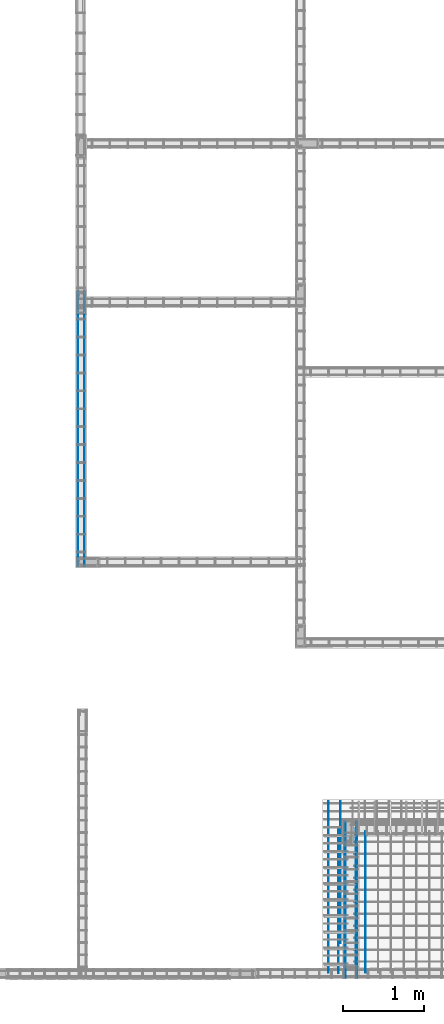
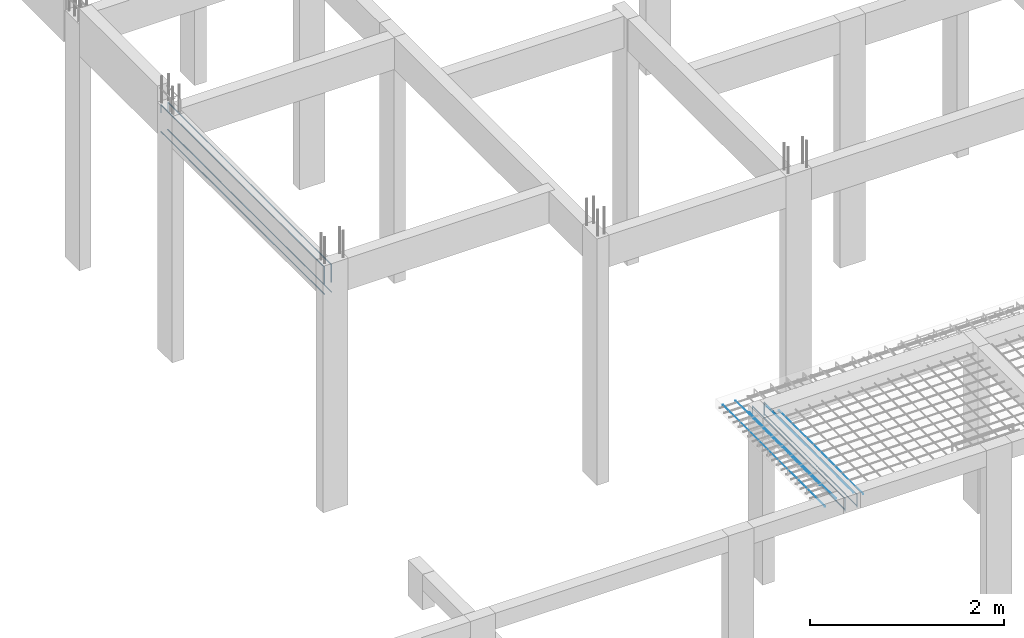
# One storey, part 34 of 236: 13 reinforcing bars.
"""IFC4 building model written with IfcOpenShell, lengths in centimetres."""

from ifc_helpers import new_model, entity, si_unit, derived_unit, frame, origin_with_axes, place, context, project, spatial, element, save


model = new_model("IFC4")

# Units and contexts
model_context = context("Model", 3, precision=1e-05, world=origin_with_axes(), identifier="Body")
ifc_project = project(units=[si_unit("LENGTHUNIT", "METRE", prefix="CENTI"), si_unit("VOLUMEUNIT", "CUBIC_METRE"), si_unit("AREAUNIT", "SQUARE_METRE"), si_unit("POWERUNIT", "WATT"), si_unit("LUMINOUSFLUXUNIT", "LUMEN"), si_unit("ELECTRICCURRENTUNIT", "AMPERE"), si_unit("PRESSUREUNIT", "PASCAL", prefix="KILO"), si_unit("MASSUNIT", "GRAM", prefix="KILO"), si_unit("PLANEANGLEUNIT", "RADIAN"), derived_unit("VOLUMETRICFLOWRATEUNIT", [(si_unit("LENGTHUNIT", "METRE"), 3), (si_unit("TIMEUNIT", "SECOND"), -1)])], contexts=[model_context])

# Site, building, storey
site_placement = place(None, frame((-4000.0, 0.0, 0.0), z_axis=(0.0, 0.0, 1.0), x_axis=(1.0, 0.0, 0.0)))
site = spatial("IfcSite", under=ifc_project, at=site_placement, Name="PADRÃO")
building_placement = place(site_placement, frame((0.0, 0.0, -14.0)))
building = spatial("IfcBuilding", under=site, at=building_placement, Name="CRECHE PRÉ-ESCOLA TIPO 2")
placement_1 = place(building_placement, origin_with_axes())
placement_2 = place(placement_1, frame((0.0, 0.0, 30.0), z_axis=(0.0, 0.0, 1.0), x_axis=(1.0, 0.0, 0.0)))
storey_placement = place(placement_2, frame((0.0, 0.0, 310.0), z_axis=(0.0, 0.0, 1.0), x_axis=(1.0, 0.0, 0.0)))
storey = spatial("IfcBuildingStorey", under=building, at=storey_placement, Name="TERREO", CompositionType="ELEMENT", Elevation=326.0)

# Reinforcing bars
reinforcing_bar_1_placement = place(storey_placement, frame((2603.30433333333, 96.75, -109.5), z_axis=(0.0, 0.0, 1.0), x_axis=(1.0, 0.0, 0.0)))
element("IfcReinforcingBar", 1, at=reinforcing_bar_1_placement, inside=storey, Name="L1 - Inferior X", BarLength=0.0, CrossSectionArea=1.9634954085e-05, NominalDiameter=0.5, PredefinedType="MAIN", context=model_context, shape_type="AdvancedSweptSolid", body=[
    entity("IfcSweptDiskSolid", entity("IfcCompositeCurve", [entity("IfcCompositeCurveSegment", "CONTINUOUS", True, entity("IfcPolyline", [entity("IfcCartesianPoint", [0.0, -86.75, -0.25]), entity("IfcCartesianPoint", [0.0, 86.75, -0.25])]))], False), 0.25),
])
for number, where, z_axis, x_axis, name in (
    (2, (2570.29226623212, 98.25, -103.0), (0.0, 0.0, 1.0), (1.0, 0.0, 0.0), "L2 - Complementar"),
    (3, (2591.33092113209, 98.25, -103.0), (0.0, 0.0, 1.0), (1.0, 0.0, 0.0), "L2 - Complementar"),
):
    element("IfcReinforcingBar", number, at=place(storey_placement, frame(where, z_axis=z_axis, x_axis=x_axis)), inside=storey, Name=name, BarLength=0.0, CrossSectionArea=1.9634954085e-05, NominalDiameter=0.5, PredefinedType="MAIN", context=model_context, shape_type="AdvancedSweptSolid", body=[
        entity("IfcSweptDiskSolid", entity("IfcCompositeCurve", [entity("IfcCompositeCurveSegment", "CONTINUOUS", True, entity("IfcPolyline", [entity("IfcCartesianPoint", [0.0, -89.25, -0.25]), entity("IfcCartesianPoint", [0.0, 89.25, -0.25])]))], False), 0.25),
    ])
reinforcing_bar_2_placement = place(storey_placement, frame((2572.75967391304, 133.194596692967, -109.0), z_axis=(0.0, 0.0, 1.0), x_axis=(1.0, 0.0, 0.0)))
element("IfcReinforcingBar", 4, at=reinforcing_bar_2_placement, inside=storey, Name="L2 - Inferior Y", BarLength=0.0, CrossSectionArea=1.9634954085e-05, NominalDiameter=0.5, PredefinedType="MAIN", context=model_context, shape_type="AdvancedSweptSolid", body=[
    entity("IfcSweptDiskSolid", entity("IfcCompositeCurve", [entity("IfcCompositeCurveSegment", "CONTINUOUS", True, entity("IfcPolyline", [entity("IfcCartesianPoint", [0.0, -87.305403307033, -0.25]), entity("IfcCartesianPoint", [0.0, 87.305403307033, -0.25])]))], False), 0.25),
])
reinforcing_bar_3_placement = place(storey_placement, frame((2557.89989130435, 115.25, -109.0), z_axis=(0.0, 0.0, 1.0), x_axis=(1.0, 0.0, 0.0)))
element("IfcReinforcingBar", 5, at=reinforcing_bar_3_placement, inside=storey, Name="L2 - Inferior Y", BarLength=0.0, CrossSectionArea=1.9634954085e-05, NominalDiameter=0.5, PredefinedType="MAIN", context=model_context, shape_type="AdvancedSweptSolid", body=[
    entity("IfcSweptDiskSolid", entity("IfcCompositeCurve", [entity("IfcCompositeCurveSegment", "CONTINUOUS", True, entity("IfcPolyline", [entity("IfcCartesianPoint", [0.0, -105.25, -0.25]), entity("IfcCartesianPoint", [0.0, 105.25, -0.25])]))], False), 0.25),
])
for number, where, z_axis, x_axis, name in (
    (6, (2250.38, 677.02, -36.7), (0.0, 0.0, 1.0), (1.0, 0.0, 0.0), "V287 - Longitudinal inferior"),
    (7, (2258.58, 677.02, -36.7), (0.0, 0.0, 1.0), (1.0, 0.0, 0.0), "V287 - Longitudinal inferior"),
):
    element("IfcReinforcingBar", number, at=place(storey_placement, frame(where, z_axis=z_axis, x_axis=x_axis)), inside=storey, Name=name, BarLength=0.0, CrossSectionArea=5.0265482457e-05, NominalDiameter=0.8, PredefinedType="MAIN", context=model_context, shape_type="AdvancedSweptSolid", body=[
        entity("IfcSweptDiskSolid", entity("IfcCompositeCurve", [entity("IfcCompositeCurveSegment", "CONTINUOUS", True, entity("IfcPolyline", [entity("IfcCartesianPoint", [0.0, -168.5, -0.4]), entity("IfcCartesianPoint", [0.0, 168.5, -0.4])]))], False), 0.4),
    ])
for number, where, z_axis, x_axis, name in (
    (8, (2258.58, 677.02, -2.49624973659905), (0.0, 0.0, 1.0), (1.0, 0.0, 0.0), "V287 - Longitudinal superior"),
    (9, (2250.38, 677.02, -2.49624973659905), (0.0, 0.0, 1.0), (1.0, 0.0, 0.0), "V287 - Longitudinal superior"),
):
    element("IfcReinforcingBar", number, at=place(storey_placement, frame(where, z_axis=z_axis, x_axis=x_axis)), inside=storey, Name=name, BarLength=0.0, CrossSectionArea=5.0265482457e-05, NominalDiameter=0.8, PredefinedType="MAIN", context=model_context, shape_type="AdvancedSweptSolid", body=[
        entity("IfcSweptDiskSolid", entity("IfcCompositeCurve", [entity("IfcCompositeCurveSegment", "CONTINUOUS", True, entity("IfcPolyline", [entity("IfcCartesianPoint", [0.0, -168.1, -22.7014629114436]), entity("IfcCartesianPoint", [0.0, -168.1, -0.403750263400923])])), entity("IfcCompositeCurveSegment", "CONTINUOUS", True, entity("IfcPolyline", [entity("IfcCartesianPoint", [0.0, -168.1, -0.403750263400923]), entity("IfcCartesianPoint", [0.0, 168.1, -0.403750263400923])])), entity("IfcCompositeCurveSegment", "CONTINUOUS", True, entity("IfcPolyline", [entity("IfcCartesianPoint", [0.0, 168.1, -0.403750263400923]), entity("IfcCartesianPoint", [0.0, 168.1, -10.4037502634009])]))], False), 0.4),
    ])
for number, where, z_axis, x_axis, name in (
    (10, (2592.56, 99.75, -116.7), (0.0, 0.0, 1.0), (1.0, 0.0, 0.0), "V325 - Longitudinal inferior"),
    (11, (2578.36, 99.75, -116.7), (0.0, 0.0, 1.0), (1.0, 0.0, 0.0), "V325 - Longitudinal inferior"),
):
    element("IfcReinforcingBar", number, at=place(storey_placement, frame(where, z_axis=z_axis, x_axis=x_axis)), inside=storey, Name=name, BarLength=0.0, CrossSectionArea=5.0265482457e-05, NominalDiameter=0.8, PredefinedType="MAIN", context=model_context, shape_type="AdvancedSweptSolid", body=[
        entity("IfcSweptDiskSolid", entity("IfcCompositeCurve", [entity("IfcCompositeCurveSegment", "CONTINUOUS", True, entity("IfcPolyline", [entity("IfcCartesianPoint", [0.0, -95.75, -0.4]), entity("IfcCartesianPoint", [0.0, 95.75, -0.4])]))], False), 0.4),
    ])
for number, where, z_axis, x_axis, name in (
    (12, (2592.56, 99.75, -102.496249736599), (0.0, 0.0, 1.0), (1.0, 0.0, 0.0), "V325 - Longitudinal superior"),
    (13, (2578.36, 99.75, -102.496249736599), (0.0, 0.0, 1.0), (1.0, 0.0, 0.0), "V325 - Longitudinal superior"),
):
    element("IfcReinforcingBar", number, at=place(storey_placement, frame(where, z_axis=z_axis, x_axis=x_axis)), inside=storey, Name=name, BarLength=0.0, CrossSectionArea=5.0265482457e-05, NominalDiameter=0.8, PredefinedType="MAIN", context=model_context, shape_type="AdvancedSweptSolid", body=[
        entity("IfcSweptDiskSolid", entity("IfcCompositeCurve", [entity("IfcCompositeCurveSegment", "CONTINUOUS", True, entity("IfcPolyline", [entity("IfcCartesianPoint", [0.0, -95.35, -16.403750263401]), entity("IfcCartesianPoint", [0.0, -95.35, -0.403750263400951])])), entity("IfcCompositeCurveSegment", "CONTINUOUS", True, entity("IfcPolyline", [entity("IfcCartesianPoint", [0.0, -95.35, -0.403750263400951]), entity("IfcCartesianPoint", [0.0, 95.35, -0.403750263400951])])), entity("IfcCompositeCurveSegment", "CONTINUOUS", True, entity("IfcPolyline", [entity("IfcCartesianPoint", [0.0, 95.35, -0.403750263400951]), entity("IfcCartesianPoint", [0.0, 95.35, -16.3306878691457])]))], False), 0.4),
    ])

save(model, "model.ifc")
